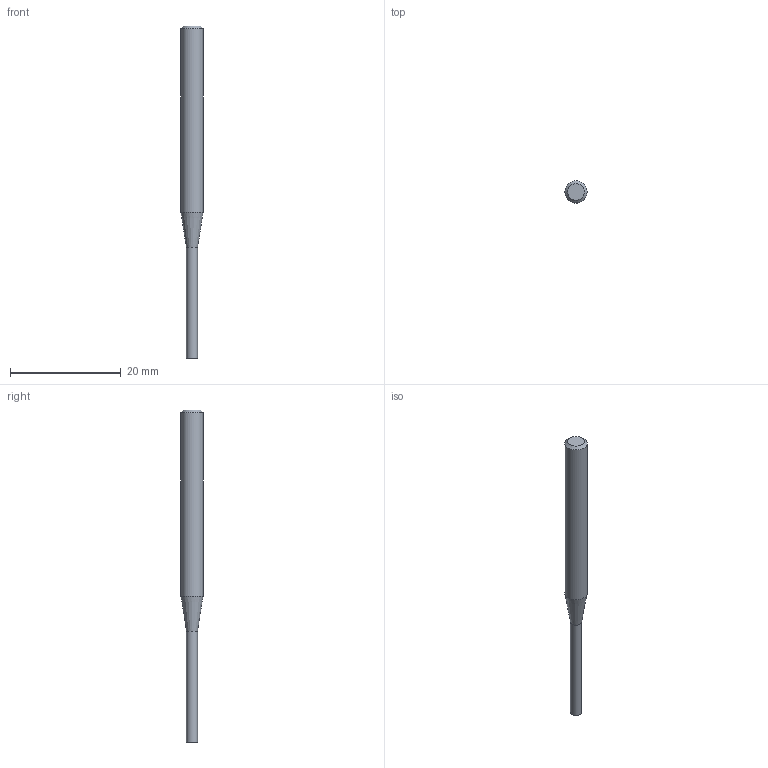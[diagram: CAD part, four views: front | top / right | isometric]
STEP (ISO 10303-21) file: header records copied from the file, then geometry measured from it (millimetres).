
FILE_DESCRIPTION((''),'2;1');
FILE_NAME('C:\Users\nsx150\Desktop\RSE230_20210427\01-00644-02002 RSE230 D2X20.step','2021-05-07T14:53:39',(''),(''),'STEP Write','Mastercam 2021 ... CNC Software, Inc.','');
FILE_SCHEMA(('AUTOMOTIVE_DESIGN'));
Length unit declared in the file: millimetre
Products named in the file (1): None
Bounding box: 4 x 4 x 60 mm (x, y, z)
Volume: 531 mm3; surface area: 627.2 mm2
Topology: 2 solids, 2 shells, 8 faces, 10 edges, 6 vertices
Faces by surface type: plane 4, cylinder 2, cone 2
Full cylindrical faces by diameter (mm): 2 x1, 4 x1
Entity records: 190 total; most frequent: DIRECTION 32, CARTESIAN_POINT 22, AXIS2_PLACEMENT_3D 16, ORIENTED_EDGE 12, EDGE_LOOP 12, STYLED_ITEM 11, ADVANCED_FACE 8, VERTEX_POINT 6
